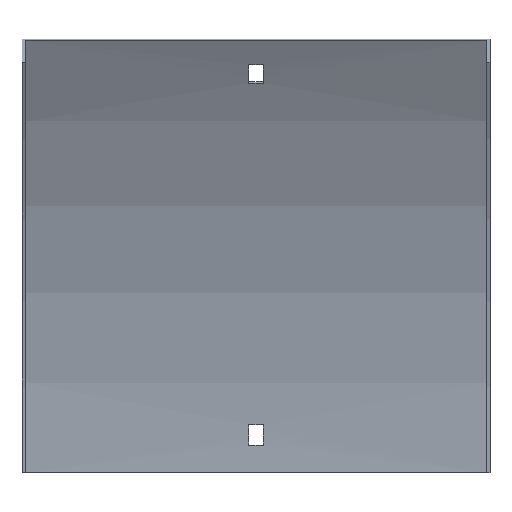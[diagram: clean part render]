
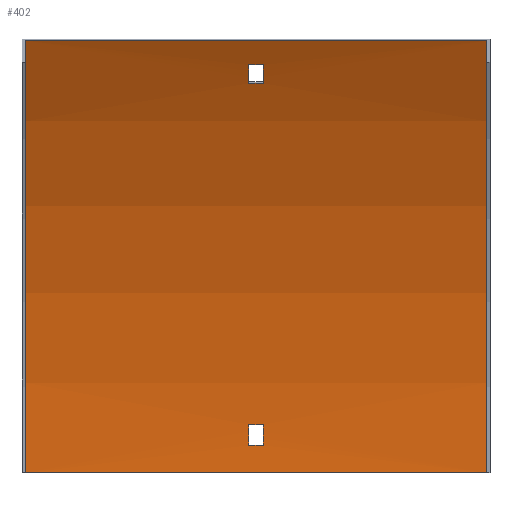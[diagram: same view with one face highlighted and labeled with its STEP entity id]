
A CAD part, front view. The second image highlights one B-rep face of the part: STEP entity #402.
In plain terms, the highlighted cylindrical face has radius 375 mm (diameter 750 mm), a partial arc.
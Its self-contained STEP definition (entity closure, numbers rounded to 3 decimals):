
#15 = ORIENTED_EDGE ( 'NONE', *, *, #137, .F. ) ;
#23 = ORIENTED_EDGE ( 'NONE', *, *, #360, .T. ) ;
#26 = CIRCLE ( 'NONE', #63, 375. ) ;
#28 = CARTESIAN_POINT ( 'NONE',  ( 3.25, -45.907, 177.012 ) ) ;
#29 = VERTEX_POINT ( 'NONE', #28 ) ;
#37 = CARTESIAN_POINT ( 'NONE',  ( -100., -51.74, 187.5 ) ) ;
#40 = DIRECTION ( 'NONE',  ( 0., 0., 1. ) ) ;
#41 = CARTESIAN_POINT ( 'NONE',  ( 3.25, -41.75, 169.019 ) ) ;
#43 = VECTOR ( 'NONE', #172, 1000. ) ;
#44 = ORIENTED_EDGE ( 'NONE', *, *, #134, .T. ) ;
#63 = AXIS2_PLACEMENT_3D ( 'NONE', #255, #537, #453 ) ;
#64 = EDGE_CURVE ( 'NONE', #267, #118, #529, .T. ) ;
#78 = AXIS2_PLACEMENT_3D ( 'NONE', #450, #216, #40 ) ;
#82 = DIRECTION ( 'NONE',  ( 1., 0., 0. ) ) ;
#89 = LINE ( 'NONE', #543, #156 ) ;
#95 = EDGE_CURVE ( 'NONE', #218, #267, #571, .T. ) ;
#113 = ORIENTED_EDGE ( 'NONE', *, *, #64, .F. ) ;
#116 = DIRECTION ( 'NONE',  ( -1., 0., 0. ) ) ;
#118 = VERTEX_POINT ( 'NONE', #454 ) ;
#119 = DIRECTION ( 'NONE',  ( 1., 0., 0. ) ) ;
#121 = LINE ( 'NONE', #247, #584 ) ;
#122 = FACE_BOUND ( 'NONE', #236, .T. ) ;
#129 = DIRECTION ( 'NONE',  ( -1., 0., 0. ) ) ;
#134 = EDGE_CURVE ( 'NONE', #497, #29, #541, .T. ) ;
#135 = CYLINDRICAL_SURFACE ( 'NONE', #78, 375. ) ;
#137 = EDGE_CURVE ( 'NONE', #221, #313, #183, .T. ) ;
#140 = AXIS2_PLACEMENT_3D ( 'NONE', #186, #266, #141 ) ;
#141 = DIRECTION ( 'NONE',  ( 0., 0., 1. ) ) ;
#149 = VECTOR ( 'NONE', #116, 1000. ) ;
#154 = EDGE_CURVE ( 'NONE', #184, #556, #495, .T. ) ;
#156 = VECTOR ( 'NONE', #129, 1000. ) ;
#161 = CARTESIAN_POINT ( 'NONE',  ( 101.5, -41.75, 169.019 ) ) ;
#166 = CARTESIAN_POINT ( 'NONE',  ( 3.25, -376.5, 0. ) ) ;
#167 = DIRECTION ( 'NONE',  ( -1., 0., 0. ) ) ;
#168 = DIRECTION ( 'NONE',  ( 0., 0., -1. ) ) ;
#172 = DIRECTION ( 'NONE',  ( -1., 0., 0. ) ) ;
#179 = EDGE_CURVE ( 'NONE', #228, #221, #89, .T. ) ;
#181 = CARTESIAN_POINT ( 'NONE',  ( 3.25, -1.692, 12. ) ) ;
#183 = CIRCLE ( 'NONE', #203, 375. ) ;
#184 = VERTEX_POINT ( 'NONE', #41 ) ;
#186 = CARTESIAN_POINT ( 'NONE',  ( -3.25, -376.5, 0. ) ) ;
#199 = ORIENTED_EDGE ( 'NONE', *, *, #95, .F. ) ;
#203 = AXIS2_PLACEMENT_3D ( 'NONE', #443, #210, #168 ) ;
#210 = DIRECTION ( 'NONE',  ( 1., 0., 0. ) ) ;
#211 = AXIS2_PLACEMENT_3D ( 'NONE', #166, #351, #539 ) ;
#214 = DIRECTION ( 'NONE',  ( 0., 0., -1. ) ) ;
#216 = DIRECTION ( 'NONE',  ( -1., 0., 0. ) ) ;
#217 = CARTESIAN_POINT ( 'NONE',  ( 101.5, -45.907, 177.012 ) ) ;
#218 = VERTEX_POINT ( 'NONE', #181 ) ;
#221 = VERTEX_POINT ( 'NONE', #363 ) ;
#223 = CARTESIAN_POINT ( 'NONE',  ( 3.25, -376.5, 0. ) ) ;
#228 = VERTEX_POINT ( 'NONE', #273 ) ;
#236 = EDGE_LOOP ( 'NONE', ( #338, #113, #199, #426 ) ) ;
#238 = CARTESIAN_POINT ( 'NONE',  ( 101.5, -2.088, 21. ) ) ;
#241 = ORIENTED_EDGE ( 'NONE', *, *, #179, .F. ) ;
#246 = DIRECTION ( 'NONE',  ( 1., 0., 0. ) ) ;
#247 = CARTESIAN_POINT ( 'NONE',  ( 101.5, -1.692, 12. ) ) ;
#252 = CIRCLE ( 'NONE', #602, 375. ) ;
#255 = CARTESIAN_POINT ( 'NONE',  ( -3.25, -376.5, 0. ) ) ;
#261 = EDGE_CURVE ( 'NONE', #531, #218, #121, .T. ) ;
#266 = DIRECTION ( 'NONE',  ( -1., 0., 0. ) ) ;
#267 = VERTEX_POINT ( 'NONE', #391 ) ;
#273 = CARTESIAN_POINT ( 'NONE',  ( 100., -1.5, 0. ) ) ;
#306 = CARTESIAN_POINT ( 'NONE',  ( 100., -376.5, 0. ) ) ;
#311 = EDGE_CURVE ( 'NONE', #29, #184, #472, .T. ) ;
#313 = VERTEX_POINT ( 'NONE', #37 ) ;
#322 = CARTESIAN_POINT ( 'NONE',  ( -3.25, -1.692, 12. ) ) ;
#338 = ORIENTED_EDGE ( 'NONE', *, *, #518, .F. ) ;
#344 = AXIS2_PLACEMENT_3D ( 'NONE', #223, #547, #214 ) ;
#351 = DIRECTION ( 'NONE',  ( -1., 0., 0. ) ) ;
#352 = FACE_BOUND ( 'NONE', #378, .T. ) ;
#360 = EDGE_CURVE ( 'NONE', #228, #459, #252, .T. ) ;
#362 = LINE ( 'NONE', #399, #414 ) ;
#363 = CARTESIAN_POINT ( 'NONE',  ( -100., -1.5, 0. ) ) ;
#364 = CARTESIAN_POINT ( 'NONE',  ( -3.25, -45.907, 177.012 ) ) ;
#366 = EDGE_CURVE ( 'NONE', #459, #313, #362, .T. ) ;
#378 = EDGE_LOOP ( 'NONE', ( #545, #417, #44, #580 ) ) ;
#380 = EDGE_CURVE ( 'NONE', #556, #497, #26, .T. ) ;
#381 = EDGE_LOOP ( 'NONE', ( #15, #241, #23, #463 ) ) ;
#391 = CARTESIAN_POINT ( 'NONE',  ( 3.25, -2.088, 21. ) ) ;
#399 = CARTESIAN_POINT ( 'NONE',  ( 100., -51.74, 187.5 ) ) ;
#402 = ADVANCED_FACE ( 'NONE', ( #122, #549, #352 ), #135, .F. ) ;
#414 = VECTOR ( 'NONE', #167, 1000. ) ;
#415 = CARTESIAN_POINT ( 'NONE',  ( 100., -51.74, 187.5 ) ) ;
#417 = ORIENTED_EDGE ( 'NONE', *, *, #380, .T. ) ;
#426 = ORIENTED_EDGE ( 'NONE', *, *, #261, .F. ) ;
#443 = CARTESIAN_POINT ( 'NONE',  ( -100., -376.5, 0. ) ) ;
#450 = CARTESIAN_POINT ( 'NONE',  ( 101.5, -376.5, 0. ) ) ;
#453 = DIRECTION ( 'NONE',  ( 0., 0., -1. ) ) ;
#454 = CARTESIAN_POINT ( 'NONE',  ( -3.25, -2.088, 21. ) ) ;
#459 = VERTEX_POINT ( 'NONE', #415 ) ;
#463 = ORIENTED_EDGE ( 'NONE', *, *, #366, .T. ) ;
#472 = CIRCLE ( 'NONE', #211, 375. ) ;
#495 = LINE ( 'NONE', #161, #43 ) ;
#497 = VERTEX_POINT ( 'NONE', #364 ) ;
#505 = VECTOR ( 'NONE', #246, 1000. ) ;
#518 = EDGE_CURVE ( 'NONE', #118, #531, #585, .T. ) ;
#529 = LINE ( 'NONE', #238, #149 ) ;
#531 = VERTEX_POINT ( 'NONE', #322 ) ;
#537 = DIRECTION ( 'NONE',  ( 1., 0., 0. ) ) ;
#539 = DIRECTION ( 'NONE',  ( 0., 0., 1. ) ) ;
#541 = LINE ( 'NONE', #217, #505 ) ;
#543 = CARTESIAN_POINT ( 'NONE',  ( 100., -1.5, 0. ) ) ;
#545 = ORIENTED_EDGE ( 'NONE', *, *, #154, .T. ) ;
#547 = DIRECTION ( 'NONE',  ( 1., 0., 0. ) ) ;
#549 = FACE_OUTER_BOUND ( 'NONE', #381, .T. ) ;
#556 = VERTEX_POINT ( 'NONE', #558 ) ;
#558 = CARTESIAN_POINT ( 'NONE',  ( -3.25, -41.75, 169.019 ) ) ;
#571 = CIRCLE ( 'NONE', #344, 375. ) ;
#580 = ORIENTED_EDGE ( 'NONE', *, *, #311, .T. ) ;
#584 = VECTOR ( 'NONE', #119, 1000. ) ;
#585 = CIRCLE ( 'NONE', #140, 375. ) ;
#594 = DIRECTION ( 'NONE',  ( 0., 0., -1. ) ) ;
#602 = AXIS2_PLACEMENT_3D ( 'NONE', #306, #82, #594 ) ;
